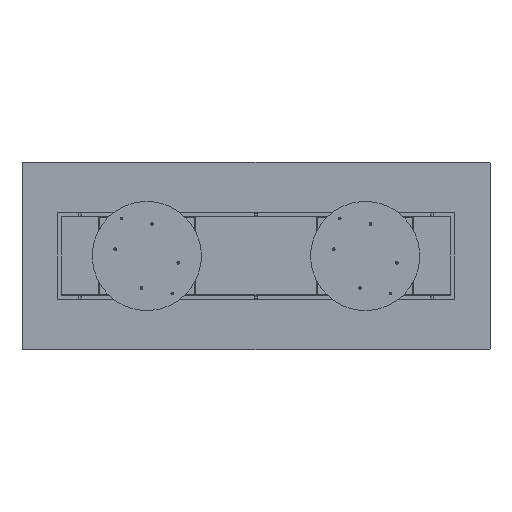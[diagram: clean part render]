
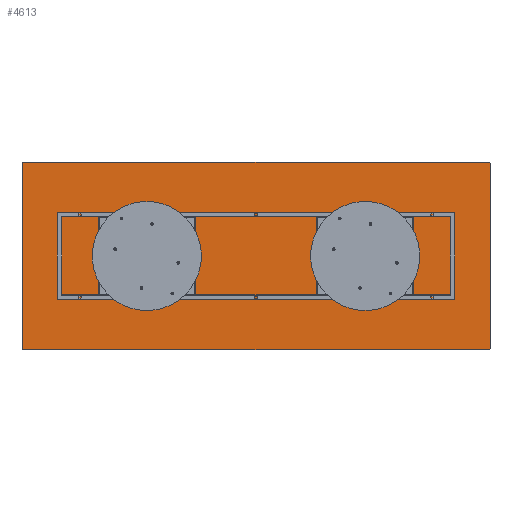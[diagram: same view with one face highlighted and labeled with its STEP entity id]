
A CAD part, front view. The second image highlights one B-rep face of the part: STEP entity #4613.
In plain terms, the highlighted planar face has unit normal (0, -1, 0).
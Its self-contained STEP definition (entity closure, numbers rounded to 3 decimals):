
#401 = CARTESIAN_POINT ( 'NONE',  ( -1500., 0., 595. ) ) ;
#460 = CARTESIAN_POINT ( 'NONE',  ( 0., 0., 0. ) ) ;
#505 = EDGE_CURVE ( 'NONE', #6088, #9231, #2466, .T. ) ;
#632 = DIRECTION ( 'NONE',  ( 0., 0., 1. ) ) ;
#651 = CARTESIAN_POINT ( 'NONE',  ( -1500., 0., 600. ) ) ;
#1641 = DIRECTION ( 'NONE',  ( 0., 0., 1. ) ) ;
#2326 = CARTESIAN_POINT ( 'NONE',  ( 1500., 0., 595. ) ) ;
#2395 = CARTESIAN_POINT ( 'NONE',  ( 1500., 0., -600. ) ) ;
#2466 = LINE ( 'NONE', #9021, #10464 ) ;
#2699 = ORIENTED_EDGE ( 'NONE', *, *, #4832, .T. ) ;
#3831 = DIRECTION ( 'NONE',  ( 0., -1., 0. ) ) ;
#3854 = CARTESIAN_POINT ( 'NONE',  ( 1500., 0., -595. ) ) ;
#4613 = ADVANCED_FACE ( 'NONE', ( #11969 ), #15155, .F. ) ;
#4762 = VERTEX_POINT ( 'NONE', #8261 ) ;
#4832 = EDGE_CURVE ( 'NONE', #8974, #7327, #20405, .T. ) ;
#5516 = AXIS2_PLACEMENT_3D ( 'NONE', #8828, #20298, #6870 ) ;
#5661 = DIRECTION ( 'NONE',  ( 1., 0., 0. ) ) ;
#6088 = VERTEX_POINT ( 'NONE', #19680 ) ;
#6191 = CIRCLE ( 'NONE', #5516, 5. ) ;
#6870 = DIRECTION ( 'NONE',  ( 0., 0., 1. ) ) ;
#6995 = DIRECTION ( 'NONE',  ( 0., 1., 0. ) ) ;
#7166 = ORIENTED_EDGE ( 'NONE', *, *, #15388, .F. ) ;
#7327 = VERTEX_POINT ( 'NONE', #17468 ) ;
#7541 = ORIENTED_EDGE ( 'NONE', *, *, #19070, .T. ) ;
#7874 = CARTESIAN_POINT ( 'NONE',  ( -1500., 0., -595. ) ) ;
#8261 = CARTESIAN_POINT ( 'NONE',  ( -1495., 0., 600. ) ) ;
#8750 = EDGE_CURVE ( 'NONE', #6088, #16610, #10427, .T. ) ;
#8828 = CARTESIAN_POINT ( 'NONE',  ( -1495., 0., -595. ) ) ;
#8974 = VERTEX_POINT ( 'NONE', #2326 ) ;
#9021 = CARTESIAN_POINT ( 'NONE',  ( -1500., 0., -600. ) ) ;
#9175 = ORIENTED_EDGE ( 'NONE', *, *, #12441, .T. ) ;
#9231 = VERTEX_POINT ( 'NONE', #9989 ) ;
#9989 = CARTESIAN_POINT ( 'NONE',  ( -1495., 0., -600. ) ) ;
#10287 = CARTESIAN_POINT ( 'NONE',  ( 1495., 0., -595. ) ) ;
#10348 = DIRECTION ( 'NONE',  ( 0., -1., 0. ) ) ;
#10427 = CIRCLE ( 'NONE', #18656, 5. ) ;
#10464 = VECTOR ( 'NONE', #18995, 1000. ) ;
#10500 = VECTOR ( 'NONE', #1641, 1000. ) ;
#10686 = ORIENTED_EDGE ( 'NONE', *, *, #8750, .T. ) ;
#10729 = ORIENTED_EDGE ( 'NONE', *, *, #10977, .F. ) ;
#10977 = EDGE_CURVE ( 'NONE', #8974, #16610, #17412, .T. ) ;
#11368 = VECTOR ( 'NONE', #18715, 1000. ) ;
#11501 = AXIS2_PLACEMENT_3D ( 'NONE', #18054, #19870, #21182 ) ;
#11809 = ORIENTED_EDGE ( 'NONE', *, *, #19109, .F. ) ;
#11841 = CIRCLE ( 'NONE', #11501, 5. ) ;
#11969 = FACE_OUTER_BOUND ( 'NONE', #17993, .T. ) ;
#12139 = VECTOR ( 'NONE', #5661, 1000. ) ;
#12441 = EDGE_CURVE ( 'NONE', #18526, #9231, #6191, .T. ) ;
#12894 = CARTESIAN_POINT ( 'NONE',  ( -1500., 0., -600. ) ) ;
#13922 = AXIS2_PLACEMENT_3D ( 'NONE', #20553, #10348, #17095 ) ;
#15155 = PLANE ( 'NONE',  #19430 ) ;
#15388 = EDGE_CURVE ( 'NONE', #4762, #7327, #20607, .T. ) ;
#16610 = VERTEX_POINT ( 'NONE', #3854 ) ;
#17095 = DIRECTION ( 'NONE',  ( 0., 0., 1. ) ) ;
#17254 = VERTEX_POINT ( 'NONE', #401 ) ;
#17412 = LINE ( 'NONE', #2395, #11368 ) ;
#17468 = CARTESIAN_POINT ( 'NONE',  ( 1495., 0., 600. ) ) ;
#17678 = ORIENTED_EDGE ( 'NONE', *, *, #505, .F. ) ;
#17993 = EDGE_LOOP ( 'NONE', ( #10729, #2699, #7166, #7541, #11809, #9175, #17678, #10686 ) ) ;
#18054 = CARTESIAN_POINT ( 'NONE',  ( -1495., 0., 595. ) ) ;
#18503 = DIRECTION ( 'NONE',  ( 0., 0., 1. ) ) ;
#18526 = VERTEX_POINT ( 'NONE', #7874 ) ;
#18656 = AXIS2_PLACEMENT_3D ( 'NONE', #10287, #3831, #632 ) ;
#18715 = DIRECTION ( 'NONE',  ( 0., 0., -1. ) ) ;
#18995 = DIRECTION ( 'NONE',  ( -1., 0., 0. ) ) ;
#19070 = EDGE_CURVE ( 'NONE', #4762, #17254, #11841, .T. ) ;
#19109 = EDGE_CURVE ( 'NONE', #18526, #17254, #21058, .T. ) ;
#19430 = AXIS2_PLACEMENT_3D ( 'NONE', #460, #6995, #18503 ) ;
#19680 = CARTESIAN_POINT ( 'NONE',  ( 1495., 0., -600. ) ) ;
#19870 = DIRECTION ( 'NONE',  ( 0., -1., 0. ) ) ;
#20298 = DIRECTION ( 'NONE',  ( 0., -1., 0. ) ) ;
#20405 = CIRCLE ( 'NONE', #13922, 5. ) ;
#20553 = CARTESIAN_POINT ( 'NONE',  ( 1495., 0., 595. ) ) ;
#20607 = LINE ( 'NONE', #651, #12139 ) ;
#21058 = LINE ( 'NONE', #12894, #10500 ) ;
#21182 = DIRECTION ( 'NONE',  ( 0., 0., 1. ) ) ;
